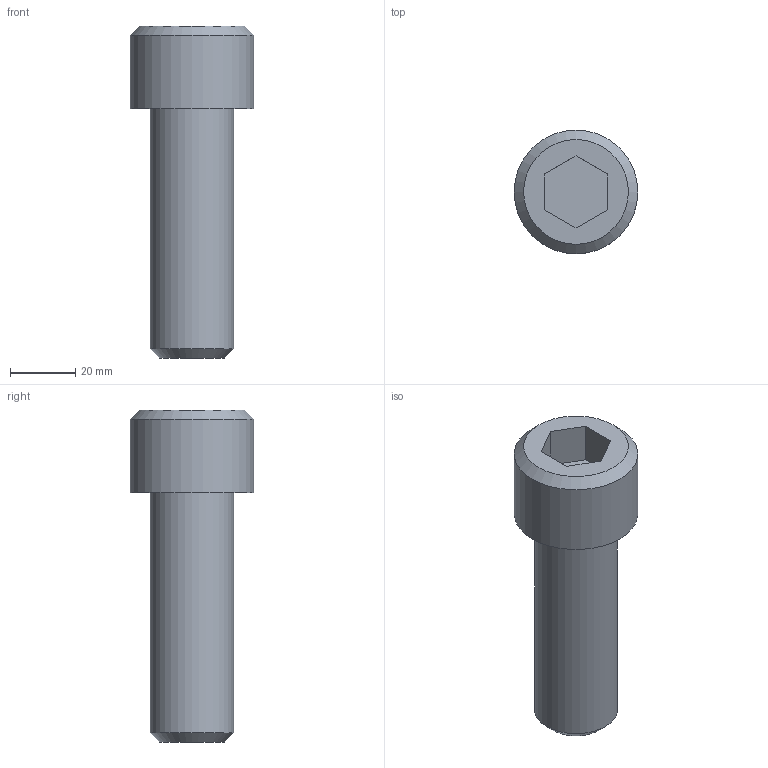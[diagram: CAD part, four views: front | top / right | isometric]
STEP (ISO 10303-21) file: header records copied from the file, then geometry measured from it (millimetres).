
FILE_DESCRIPTION((''),'2;1');
FILE_NAME('C:\Users\Stan\Desktop\import\SHCS 1-8 UNCx3.ipt.step','2011-08-18T17:44:17',(''),(''),'Autodesk Inventor 2012','Autodesk Inventor 2012','');
FILE_SCHEMA(('AUTOMOTIVE_DESIGN { 1 0 10303 214 1 1 1 1 }'));
Length unit declared in the file: inch
Products named in the file (1): SHCS 1-8 UNCx3
Bounding box: 37.8 x 37.8 x 101.45 mm (x, y, z)
Volume: 62204 mm3; surface area: 11793.3 mm2
Topology: 1 solids, 1 shells, 14 faces, 28 edges, 18 vertices
Faces by surface type: plane 10, cone 2, cylinder 2
Full cylindrical faces by diameter (mm): 25.4 x1, 37.795 x1
Entity records: 391 total; most frequent: DIRECTION 60, CARTESIAN_POINT 57, ORIENTED_EDGE 48, EDGE_CURVE 24, AXIS2_PLACEMENT_3D 21, EDGE_LOOP 20, VERTEX_POINT 18, VECTOR 18
